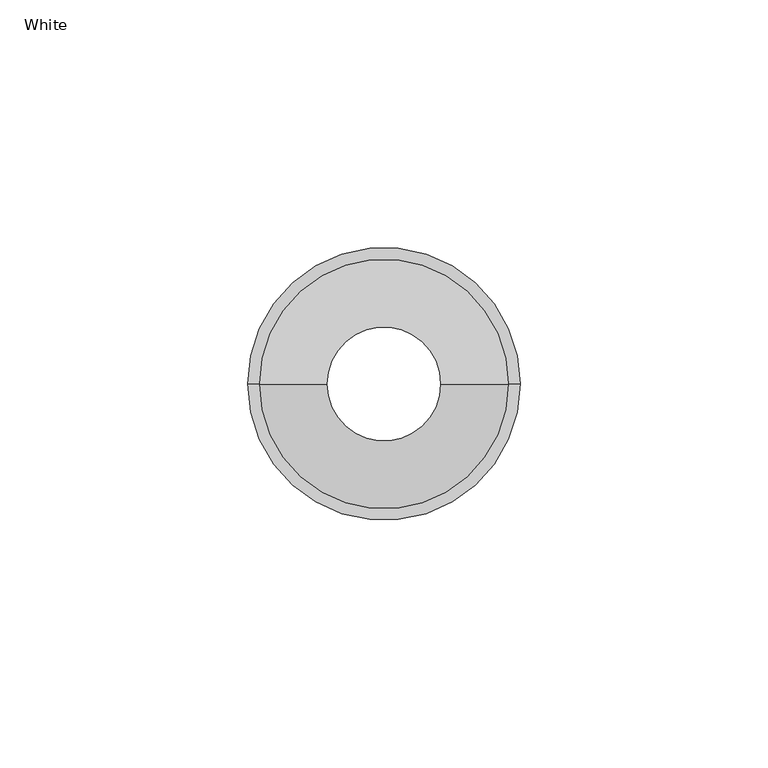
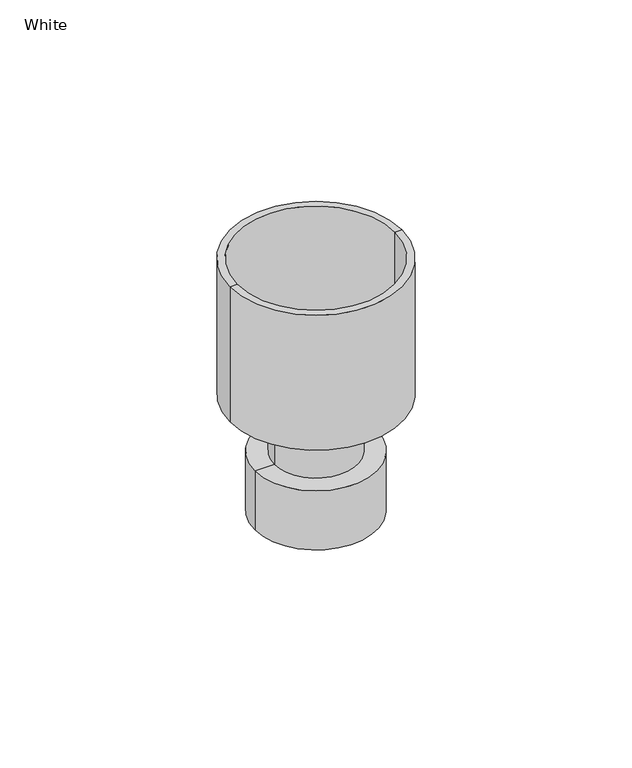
"""IFC4 building model written with IfcOpenShell, lengths in millimetres: pipe fitting geometry, Wavin_PlumbingFixture_OsmaOverflowPpTundish : White."""

from ifc_helpers import new_model, si_unit, frame, origin, place, context, project, spatial, polyline, circle_curve, source, transform, mapped, element, save
from ifc_brep_helpers import plane_surface, cylinder_surface, revolved_surface, advanced_brep


def white_a47a9528(model_context):
    return source(origin(), model_context, "Body", "AdvancedBrep", [
        advanced_brep(
        [(13.3, 0.0, -50.84651), (-13.3, 0.0, -50.84651), (-27.5, 0.0, -45.6781326), (27.5, 0.0, -45.6781326), (13.3, 0.0, -65.0), (-13.3, 0.0, -65.0), (19.5, 0.0, -65.0), (-19.5, 0.0, -65.0), (19.5, 0.0, -85.0), (-19.5, 0.0, -85.0), (11.5, 0.0, -85.0), (-11.5, 0.0, -85.0), (11.5, 0.0, -49.0902379), (-11.5, 0.0, -49.0902379), (25.2, 0.0, -44.1038457), (-25.2, 0.0, -44.1038457), (25.2, 0.0, 0.0), (-25.2, 0.0, 0.0), (27.5, 0.0, 0.0), (-27.5, 0.0, 0.0)],
        [
            (0, 1, circle_curve(frame((0.0, 0.0, -50.84651), z_axis=(0.0, 0.0, 1.0), x_axis=(-1.0, 0.0, 0.0)), 13.3)),
            (1, 2),
            (2, 3, circle_curve(frame((0.0, 0.0, -45.6781326), z_axis=(0.0, 0.0, -1.0), x_axis=(-1.0, 0.0, 0.0)), 27.5)),
            (3, 0),
            (1, 0, circle_curve(frame((0.0, 0.0, -50.84651), z_axis=(0.0, 0.0, 1.0), x_axis=(-1.0, 0.0, 0.0)), 13.3)),
            (3, 2, circle_curve(frame((0.0, 0.0, -45.6781326), z_axis=(0.0, 0.0, -1.0), x_axis=(-1.0, 0.0, 0.0)), 27.5)),
            (4, 5, circle_curve(frame((0.0, 0.0, -65.0), z_axis=(0.0, 0.0, 1.0), x_axis=(-1.0, 0.0, 0.0)), 13.3)),
            (5, 1),
            (0, 4),
            (5, 4, circle_curve(frame((0.0, 0.0, -65.0), z_axis=(0.0, 0.0, 1.0), x_axis=(-1.0, 0.0, 0.0)), 13.3)),
            (6, 7, circle_curve(frame((0.0, 0.0, -65.0), z_axis=(0.0, 0.0, 1.0), x_axis=(-1.0, 0.0, 0.0)), 19.5)),
            (7, 5),
            (4, 6),
            (7, 6, circle_curve(frame((0.0, 0.0, -65.0), z_axis=(0.0, 0.0, 1.0), x_axis=(-1.0, 0.0, 0.0)), 19.5)),
            (8, 9, circle_curve(frame((0.0, 0.0, -85.0), z_axis=(0.0, 0.0, 1.0), x_axis=(-1.0, 0.0, 0.0)), 19.5)),
            (9, 7),
            (6, 8),
            (9, 8, circle_curve(frame((0.0, 0.0, -85.0), z_axis=(0.0, 0.0, 1.0), x_axis=(-1.0, 0.0, 0.0)), 19.5)),
            (10, 11, circle_curve(frame((0.0, 0.0, -85.0), z_axis=(0.0, 0.0, 1.0), x_axis=(-1.0, 0.0, 0.0)), 11.5)),
            (11, 9),
            (8, 10),
            (11, 10, circle_curve(frame((0.0, 0.0, -85.0), z_axis=(0.0, 0.0, 1.0), x_axis=(-1.0, 0.0, 0.0)), 11.5)),
            (12, 13, circle_curve(frame((0.0, 0.0, -49.0902379), z_axis=(0.0, 0.0, 1.0), x_axis=(-1.0, 0.0, 0.0)), 11.5)),
            (13, 11),
            (10, 12),
            (13, 12, circle_curve(frame((0.0, 0.0, -49.0902379), z_axis=(0.0, 0.0, 1.0), x_axis=(-1.0, 0.0, 0.0)), 11.5)),
            (14, 15, circle_curve(frame((0.0, 0.0, -44.1038457), z_axis=(0.0, 0.0, 1.0), x_axis=(-1.0, 0.0, 0.0)), 25.2)),
            (15, 13),
            (12, 14),
            (15, 14, circle_curve(frame((0.0, 0.0, -44.1038457), z_axis=(0.0, 0.0, 1.0), x_axis=(-1.0, 0.0, 0.0)), 25.2)),
            (16, 17, circle_curve(frame((0.0, 0.0, 0.0), z_axis=(0.0, 0.0, 1.0), x_axis=(-1.0, 0.0, 0.0)), 25.2)),
            (17, 15),
            (14, 16),
            (17, 16, circle_curve(frame((0.0, 0.0, 0.0), z_axis=(0.0, 0.0, 1.0), x_axis=(-1.0, 0.0, 0.0)), 25.2)),
            (18, 19, circle_curve(frame((0.0, 0.0, 0.0), z_axis=(0.0, 0.0, 1.0), x_axis=(-1.0, 0.0, 0.0)), 27.5)),
            (19, 17),
            (16, 18),
            (19, 18, circle_curve(frame((0.0, 0.0, 0.0), z_axis=(0.0, 0.0, 1.0), x_axis=(-1.0, 0.0, 0.0)), 27.5)),
            (2, 19),
            (18, 3),
        ],
        [
            revolved_surface(polyline([(-27.5, 0.0, -45.6781326), (-13.3, 0.0, -50.84651)]), (0.0, 0.0, 10.0), (0.0, 0.0, -1.0)),
            cylinder_surface(frame((0.0, 0.0, 10.0), z_axis=(0.0, 0.0, -1.0), x_axis=(-1.0, 0.0, 0.0)), 13.3),
            plane_surface(frame((0.0, 0.0, -65.0), z_axis=(0.0, 0.0, 1.0), x_axis=(-1.0, 0.0, 0.0))),
            cylinder_surface(frame((0.0, 0.0, 10.0), z_axis=(0.0, 0.0, -1.0), x_axis=(-1.0, 0.0, 0.0)), 19.5),
            plane_surface(frame((0.0, 0.0, -85.0), z_axis=(0.0, 0.0, -1.0), x_axis=(-1.0, 0.0, 0.0))),
            revolved_surface(polyline([(-11.5, 0.0, -85.0), (-11.5, 0.0, -49.0902379)]), (0.0, 0.0, 10.0), (0.0, 0.0, -1.0)),
            revolved_surface(polyline([(-11.5, 0.0, -49.0902379), (-25.2, 0.0, -44.1038457)]), (0.0, 0.0, 10.0), (0.0, 0.0, -1.0)),
            revolved_surface(polyline([(-25.2, 0.0, -44.1038457), (-25.2, 0.0, 0.0)]), (0.0, 0.0, 10.0), (0.0, 0.0, -1.0)),
            plane_surface(frame((0.0, 0.0, 0.0), z_axis=(0.0, 0.0, 1.0), x_axis=(-1.0, 0.0, 0.0))),
            cylinder_surface(frame((0.0, 0.0, 10.0), z_axis=(0.0, 0.0, -1.0), x_axis=(-1.0, 0.0, 0.0)), 27.5),
        ],
        [
            (0, [[1, 2, 3, 4]]),
            (0, [[5, -4, 6, -2]]),
            (1, [[7, 8, -1, 9]]),
            (1, [[10, -9, -5, -8]]),
            (2, [[11, 12, -7, 13]]),
            (2, [[14, -13, -10, -12]]),
            (3, [[15, 16, -11, 17]]),
            (3, [[18, -17, -14, -16]]),
            (4, [[19, 20, -15, 21]]),
            (4, [[22, -21, -18, -20]]),
            (5, [[23, 24, -19, 25]]),
            (5, [[26, -25, -22, -24]]),
            (6, [[27, 28, -23, 29]]),
            (6, [[30, -29, -26, -28]]),
            (7, [[31, 32, -27, 33]]),
            (7, [[34, -33, -30, -32]]),
            (8, [[35, 36, -31, 37]]),
            (8, [[38, -37, -34, -36]]),
            (9, [[-3, 39, -35, 40]]),
            (9, [[-6, -40, -38, -39]]),
        ],
    ),
    ])


if __name__ == "__main__":
    model = new_model("IFC4")
    model_context = context("Model", 3, world=origin())
    ifc_project = project(units=[si_unit("LENGTHUNIT", "METRE", prefix="MILLI")], contexts=[model_context])
    site = spatial("IfcSite", under=ifc_project)
    building = spatial("IfcBuilding", under=site)
    placement = place(None, origin())
    white_shape = white_a47a9528(model_context)
    element("IfcPipeFitting", 1, ObjectType="Wavin_PlumbingFixture_OsmaOverflowPpTundish : White", at=placement, inside=building, context=model_context, shape_type="MappedRepresentation", body=[
        mapped(white_shape, transform((0.0, 0.0, 0.0), x_axis=(1.0, 0.0, 0.0), y_axis=(0.0, 1.0, 0.0), z_axis=(0.0, 0.0, 1.0))),
    ])
    save(model, "model.ifc")
